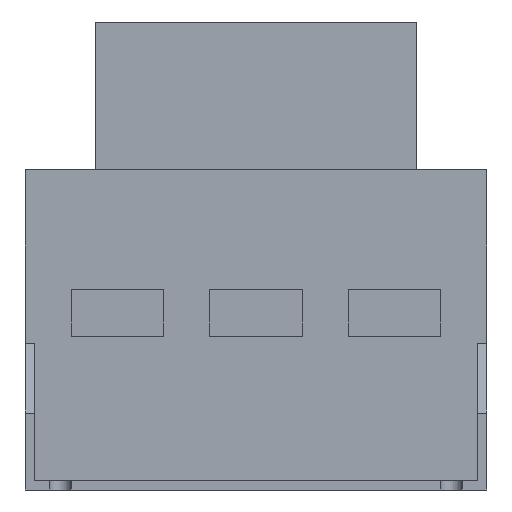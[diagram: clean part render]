
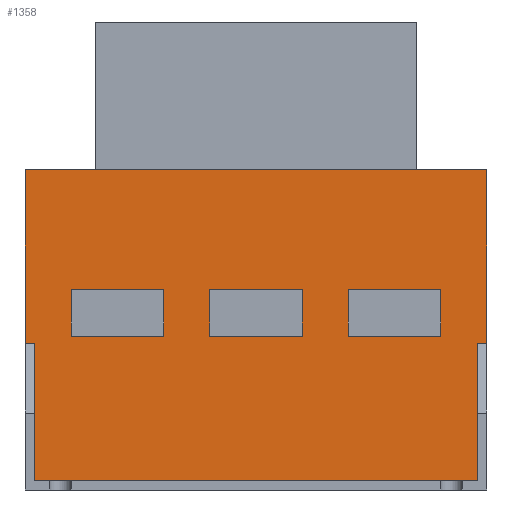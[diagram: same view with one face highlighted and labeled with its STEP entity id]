
A CAD part, front view. The second image highlights one B-rep face of the part: STEP entity #1358.
In plain terms, the highlighted planar face has unit normal (0, -1, 0).
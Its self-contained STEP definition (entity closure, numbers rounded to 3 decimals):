
#29=FACE_BOUND('',#237,.T.);
#30=FACE_BOUND('',#238,.T.);
#31=FACE_BOUND('',#239,.T.);
#80=PLANE('',#1473);
#151=FACE_OUTER_BOUND('',#236,.T.);
#236=EDGE_LOOP('',(#1162,#1163,#1164,#1165,#1166,#1167,#1168,#1169));
#237=EDGE_LOOP('',(#1170,#1171,#1172,#1173));
#238=EDGE_LOOP('',(#1174,#1175,#1176,#1177));
#239=EDGE_LOOP('',(#1178,#1179,#1180,#1181));
#268=LINE('',#1884,#430);
#272=LINE('',#1892,#434);
#275=LINE('',#1898,#437);
#278=LINE('',#1903,#440);
#280=LINE('',#1909,#442);
#284=LINE('',#1917,#446);
#287=LINE('',#1923,#449);
#290=LINE('',#1928,#452);
#292=LINE('',#1934,#454);
#296=LINE('',#1942,#458);
#299=LINE('',#1948,#461);
#302=LINE('',#1953,#464);
#373=LINE('',#2123,#535);
#377=LINE('',#2132,#539);
#386=LINE('',#2153,#548);
#389=LINE('',#2159,#551);
#390=LINE('',#2160,#552);
#391=LINE('',#2162,#553);
#392=LINE('',#2164,#554);
#393=LINE('',#2165,#555);
#430=VECTOR('',#1536,10.);
#434=VECTOR('',#1542,10.);
#437=VECTOR('',#1547,10.);
#440=VECTOR('',#1552,10.);
#442=VECTOR('',#1558,10.);
#446=VECTOR('',#1564,10.);
#449=VECTOR('',#1569,10.);
#452=VECTOR('',#1574,10.);
#454=VECTOR('',#1580,10.);
#458=VECTOR('',#1586,10.);
#461=VECTOR('',#1591,10.);
#464=VECTOR('',#1596,10.);
#535=VECTOR('',#1751,10.);
#539=VECTOR('',#1757,10.);
#548=VECTOR('',#1772,10.);
#551=VECTOR('',#1777,10.);
#552=VECTOR('',#1778,10.);
#553=VECTOR('',#1779,10.);
#554=VECTOR('',#1780,10.);
#555=VECTOR('',#1781,10.);
#622=VERTEX_POINT('',#1882);
#623=VERTEX_POINT('',#1883);
#626=VERTEX_POINT('',#1891);
#628=VERTEX_POINT('',#1897);
#630=VERTEX_POINT('',#1907);
#631=VERTEX_POINT('',#1908);
#634=VERTEX_POINT('',#1916);
#636=VERTEX_POINT('',#1922);
#638=VERTEX_POINT('',#1932);
#639=VERTEX_POINT('',#1933);
#642=VERTEX_POINT('',#1941);
#644=VERTEX_POINT('',#1947);
#701=VERTEX_POINT('',#2119);
#702=VERTEX_POINT('',#2121);
#704=VERTEX_POINT('',#2126);
#706=VERTEX_POINT('',#2130);
#715=VERTEX_POINT('',#2152);
#717=VERTEX_POINT('',#2158);
#718=VERTEX_POINT('',#2161);
#719=VERTEX_POINT('',#2163);
#752=EDGE_CURVE('',#622,#623,#268,.T.);
#756=EDGE_CURVE('',#623,#626,#272,.T.);
#759=EDGE_CURVE('',#626,#628,#275,.T.);
#762=EDGE_CURVE('',#628,#622,#278,.T.);
#764=EDGE_CURVE('',#630,#631,#280,.T.);
#768=EDGE_CURVE('',#631,#634,#284,.T.);
#771=EDGE_CURVE('',#634,#636,#287,.T.);
#774=EDGE_CURVE('',#636,#630,#290,.T.);
#776=EDGE_CURVE('',#638,#639,#292,.T.);
#780=EDGE_CURVE('',#639,#642,#296,.T.);
#783=EDGE_CURVE('',#642,#644,#299,.T.);
#786=EDGE_CURVE('',#644,#638,#302,.T.);
#869=EDGE_CURVE('',#702,#701,#373,.T.);
#873=EDGE_CURVE('',#706,#704,#377,.T.);
#882=EDGE_CURVE('',#715,#704,#386,.T.);
#885=EDGE_CURVE('',#702,#717,#389,.T.);
#886=EDGE_CURVE('',#717,#715,#390,.T.);
#887=EDGE_CURVE('',#718,#706,#391,.T.);
#888=EDGE_CURVE('',#719,#718,#392,.T.);
#889=EDGE_CURVE('',#701,#719,#393,.T.);
#1162=ORIENTED_EDGE('',*,*,#885,.T.);
#1163=ORIENTED_EDGE('',*,*,#886,.T.);
#1164=ORIENTED_EDGE('',*,*,#882,.T.);
#1165=ORIENTED_EDGE('',*,*,#873,.F.);
#1166=ORIENTED_EDGE('',*,*,#887,.F.);
#1167=ORIENTED_EDGE('',*,*,#888,.F.);
#1168=ORIENTED_EDGE('',*,*,#889,.F.);
#1169=ORIENTED_EDGE('',*,*,#869,.F.);
#1170=ORIENTED_EDGE('',*,*,#752,.T.);
#1171=ORIENTED_EDGE('',*,*,#756,.T.);
#1172=ORIENTED_EDGE('',*,*,#759,.T.);
#1173=ORIENTED_EDGE('',*,*,#762,.T.);
#1174=ORIENTED_EDGE('',*,*,#764,.T.);
#1175=ORIENTED_EDGE('',*,*,#768,.T.);
#1176=ORIENTED_EDGE('',*,*,#771,.T.);
#1177=ORIENTED_EDGE('',*,*,#774,.T.);
#1178=ORIENTED_EDGE('',*,*,#776,.T.);
#1179=ORIENTED_EDGE('',*,*,#780,.T.);
#1180=ORIENTED_EDGE('',*,*,#783,.T.);
#1181=ORIENTED_EDGE('',*,*,#786,.T.);
#1358=ADVANCED_FACE('',(#151,#29,#30,#31),#80,.T.);
#1473=AXIS2_PLACEMENT_3D('',#2157,#1775,#1776);
#1536=DIRECTION('',(0.,0.,1.));
#1542=DIRECTION('',(1.,0.,0.));
#1547=DIRECTION('',(0.,0.,-1.));
#1552=DIRECTION('',(-1.,0.,0.));
#1558=DIRECTION('',(0.,0.,1.));
#1564=DIRECTION('',(1.,0.,0.));
#1569=DIRECTION('',(0.,0.,-1.));
#1574=DIRECTION('',(-1.,0.,0.));
#1580=DIRECTION('',(0.,0.,1.));
#1586=DIRECTION('',(1.,0.,0.));
#1591=DIRECTION('',(0.,0.,-1.));
#1596=DIRECTION('',(-1.,0.,0.));
#1751=DIRECTION('',(-1.,0.,0.));
#1757=DIRECTION('',(-1.,0.,0.));
#1772=DIRECTION('',(0.,0.,1.));
#1775=DIRECTION('center_axis',(0.,-1.,0.));
#1776=DIRECTION('ref_axis',(1.,0.,0.));
#1777=DIRECTION('',(0.,0.,-1.));
#1778=DIRECTION('',(1.,0.,0.));
#1779=DIRECTION('',(0.,0.,-1.));
#1780=DIRECTION('',(1.,0.,0.));
#1781=DIRECTION('',(0.,0.,1.));
#1882=CARTESIAN_POINT('',(-60.,-109.,50.));
#1883=CARTESIAN_POINT('',(-60.,-109.,65.));
#1884=CARTESIAN_POINT('',(-60.,-109.,32.5));
#1891=CARTESIAN_POINT('',(-30.,-109.,65.));
#1892=CARTESIAN_POINT('',(-52.5,-109.,65.));
#1897=CARTESIAN_POINT('',(-30.,-109.,50.));
#1898=CARTESIAN_POINT('',(-30.,-109.,25.));
#1903=CARTESIAN_POINT('',(-67.5,-109.,50.));
#1907=CARTESIAN_POINT('',(-15.,-109.,50.));
#1908=CARTESIAN_POINT('',(-15.,-109.,65.));
#1909=CARTESIAN_POINT('',(-15.,-109.,32.5));
#1916=CARTESIAN_POINT('',(15.,-109.,65.));
#1917=CARTESIAN_POINT('',(-30.,-109.,65.));
#1922=CARTESIAN_POINT('',(15.,-109.,50.));
#1923=CARTESIAN_POINT('',(15.,-109.,25.));
#1928=CARTESIAN_POINT('',(-45.,-109.,50.));
#1932=CARTESIAN_POINT('',(30.,-109.,50.));
#1933=CARTESIAN_POINT('',(30.,-109.,65.));
#1934=CARTESIAN_POINT('',(30.,-109.,32.5));
#1941=CARTESIAN_POINT('',(60.,-109.,65.));
#1942=CARTESIAN_POINT('',(-7.5,-109.,65.));
#1947=CARTESIAN_POINT('',(60.,-109.,50.));
#1948=CARTESIAN_POINT('',(60.,-109.,25.));
#1953=CARTESIAN_POINT('',(-22.5,-109.,50.));
#2119=CARTESIAN_POINT('',(-75.,-109.,47.656));
#2121=CARTESIAN_POINT('',(-72.,-109.,47.656));
#2123=CARTESIAN_POINT('',(75.,-109.,47.656));
#2126=CARTESIAN_POINT('',(72.,-109.,47.656));
#2130=CARTESIAN_POINT('',(75.,-109.,47.656));
#2132=CARTESIAN_POINT('',(75.,-109.,47.656));
#2152=CARTESIAN_POINT('',(72.,-109.,3.));
#2153=CARTESIAN_POINT('',(72.,-109.,52.));
#2157=CARTESIAN_POINT('Origin',(-75.,-109.,0.));
#2158=CARTESIAN_POINT('',(-72.,-109.,3.));
#2159=CARTESIAN_POINT('',(-72.,-109.,1.5));
#2160=CARTESIAN_POINT('',(-1.5,-109.,3.));
#2161=CARTESIAN_POINT('',(75.,-109.,104.));
#2162=CARTESIAN_POINT('',(75.,-109.,72.411));
#2163=CARTESIAN_POINT('',(-75.,-109.,104.));
#2164=CARTESIAN_POINT('',(37.5,-109.,104.));
#2165=CARTESIAN_POINT('',(-75.,-109.,72.411));
